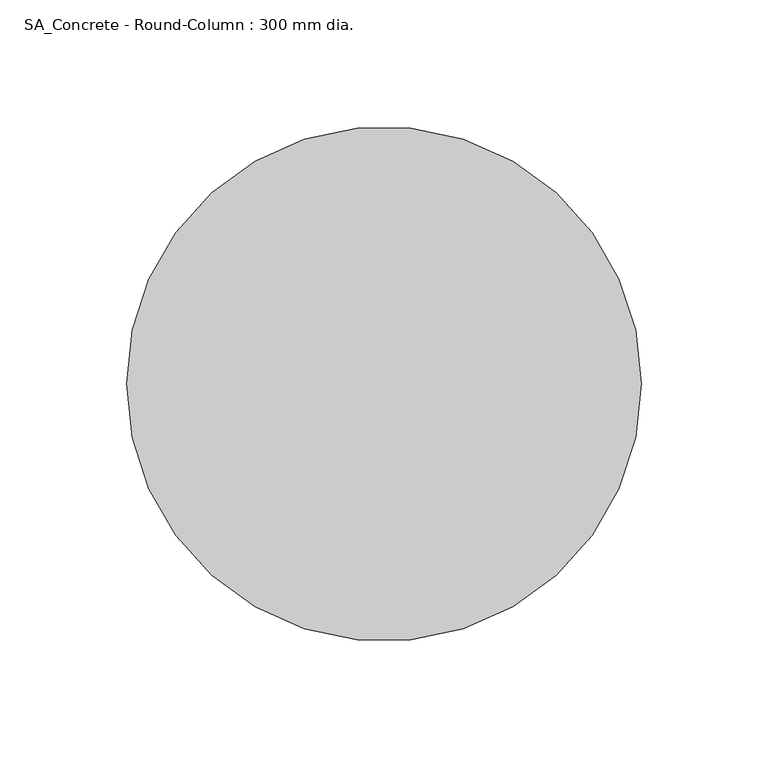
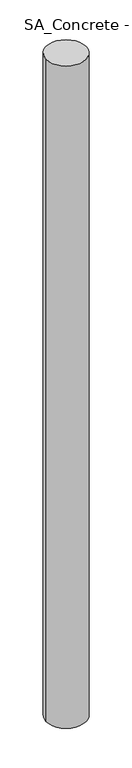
"""IFC4 building model written with IfcOpenShell, lengths in millimetres: column geometry, SA_Concrete - Round-Column : 300 mm dia.."""

from ifc_helpers import new_model, si_unit, point, frame, origin, origin_2d, place, context, project, spatial, circle_curve, trimmed, segment, composite_curve, outline, extrude, source, transform, mapped, element, save


def sa_concrete_round_column_300_mm_dia_784098f8(model_context):
    return source(origin(), model_context, "Body", "SweptSolid", [
        extrude(outline(composite_curve([segment(trimmed(circle_curve(origin_2d(), 101.6), [point((101.6, 0.0))], [point((-101.6, 0.0))], False, "CARTESIAN"), True, "CONTINUOUS"), segment(trimmed(circle_curve(origin_2d(), 101.6), [point((-101.6, 0.0))], [point((101.6, 0.0))], False, "CARTESIAN"), True, "CONTINUOUS")], self_intersect=False)), frame((0.0, 0.0, 3581.4), z_axis=(0.0, 0.0, 1.0), x_axis=(1.0, 0.0, 0.0)), (0.0, 0.0, 1.0), 3581.4),
    ])


if __name__ == "__main__":
    model = new_model("IFC4")
    model_context = context("Model", 3, world=origin())
    ifc_project = project(units=[si_unit("LENGTHUNIT", "METRE", prefix="MILLI")], contexts=[model_context])
    site = spatial("IfcSite", under=ifc_project)
    building = spatial("IfcBuilding", under=site)
    placement = place(None, origin())
    sa_concrete_round_column_300_mm_dia_shape = sa_concrete_round_column_300_mm_dia_784098f8(model_context)
    element("IfcColumn", 1, ObjectType="SA_Concrete - Round-Column : 300 mm dia.", at=placement, inside=building, context=model_context, shape_type="MappedRepresentation", body=[
        mapped(sa_concrete_round_column_300_mm_dia_shape, transform((0.0, 0.0, 0.0), x_axis=(1.0, 0.0, 0.0), y_axis=(0.0, 1.0, 0.0), z_axis=(0.0, 0.0, 1.0))),
    ])
    save(model, "model.ifc")
